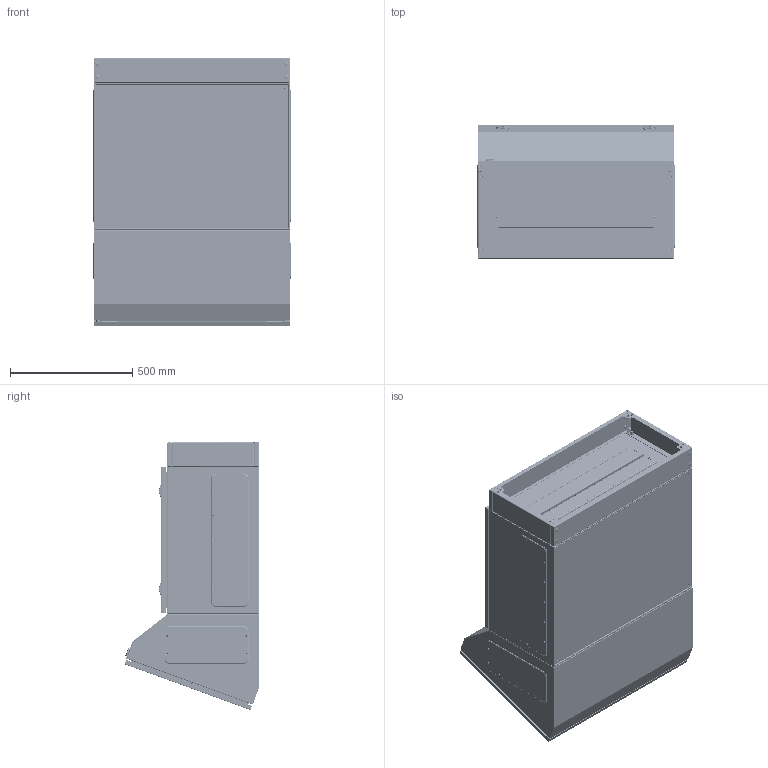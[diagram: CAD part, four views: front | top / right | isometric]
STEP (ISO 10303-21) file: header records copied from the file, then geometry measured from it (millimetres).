
FILE_DESCRIPTION (( 'STEP AP203' ), '1' );
FILE_NAME ('R5RCPC800+R5RBPC800+R5N3BP84+R5FZ8+R5BZ4_Assem.STEP', '2024-12-02T19:23:52', ( '' ), ( '' ), 'SwSTEP 2.0', 'SolidWorks 2022', '' );
FILE_SCHEMA (( 'CONFIG_CONTROL_DESIGN' ));
Length unit declared in the file: millimetre
Products named in the file (90): RB.0048.11.01.0_-04; M6x16 DIN 912 HX cl.4,8 Zinc_stright; M4x10 DIN 7500 M PZ cl.4,8 Zinc_straight; RB.2171.00.00.0 СБ; PF 4x8 flange ST_04; RB.3108.04.00.0 СБ_-01; Pin 1.0х12 DIN 6325; RB.3104.04.00.0 СБ; M8x20 DIN 933 cl.8,8 Zinc_straight; Gas elevator M102_1; M4x6 DIN 7985 PH cl.4,8 Zinc_straight; Уплотнитель неопрен 3x8_PD.24.07.05_800; RB.1055.00.00.0_-03; RB.3104.01.00.0 СБ_-01; PF 4x8 flange ST_02; М6х12 A5100231_straight; RB.2703.00.00.0; RB.3108.02.01.0; RB.3108.02.02.0_-01; R5FZ_R5FZ8-400; RB.1054.00.00.0_-03; RB.3104.02.01.0_-01; RB.2237.00.00.0; M8 DIN 6923 cl.8,0 Zinc_thread; TPA.08.0002.00.00.0; RB.3108.05.03.0; AC00C343-Trizam; RB.3108.05.02.0; RB.2010.00.00.0_-04; TPA.08.0077.00.00.0; TPA.08.0001.00.00.0; RB.3108.03.00.0 СБ; PF 7,5x15 door R5RCPC, R5RBPC_800x550; RB.0048.11.00.0 CБ_-04; Plug_11.5-13Д18ЧК_-00; RB.3108.02.01.0_-01; RB.1728.00.00.0_-02; RB.3108.03.01.0; RB.2070.00.00.0; R5RCPC800+R5RBPC800+R5N3BP84+R5FZ8+R5BZ4_Assem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
Assembly tree (281 placements, depth 5):
  R5RCPC800+R5RBPC800+R5N3BP84+R5FZ8+R5BZ4_Assem
    RB.3104.00.00.0 СБ_-01
      RB.3104.01.00.0 СБ_-01
        RB.3104.02.00.0 СБ_-01
          RB.3104.02.02.0_-01
          RB.3104.02.01.0_-01  x2
          PT М8х25 cl.4.8 Cu ISO13918_straight  x4
          PT М6х16 Cu ISO13918_straight  x4
        RB.2171.00.00.0 СБ  x2
          RB.2171.00.01.0
          Pin 1.0х12 DIN 6325
        4 DIN 125 A Plastic  x2
        M4x6 DIN 7985 PH cl.4,8 Zinc_straight  x2
        TPA.08.0077.00.00.0  x2
      RB.2070.00.00.0  x4
      RB.0048.00.02.1_-07
      M8 DIN 6923 cl.8,0 Zinc_straight  x4
      RB.3104.03.00.0 СБ
        RB.3104.04.00.0 СБ
          RB.3104.04.01.0
          RB.2237.00.00.0  x2
          RB.2010.00.00.0_-04  x2
          М6х12 A5100231_straight  x2
        PF 7,5x15 door R5RCPC, R5RBPC_600x800
        TPA.08.0060.00.00.0 СБ  x2
          A7100032-R
          AC00C343-Trizam
          AC00C348-R
          TPA.08.0001.00.00.0
          TPA.08.0002.00.00.0
          TPA.08.0003.00.00.0
          M6x16 DIN 7985 PZ cl.4,8 Zinc_straight
        AC00C356-R_AC00c356(A7100031)  x2
      RB.2238.00.00.0  x2
      AC00C380-R  x2
      RB.0048.11.00.0 CБ_-04  x2
        RB.0048.11.01.0_-04
        PF 4x8 flange ST_04
      M4x10 DIN 7500 M PZ cl.4,8 Zinc_straight  x4
    Уплотнитель неопрен 3x8_PD.24.07.05_800
    RB.3108.00.00.0 СБ_-01
      RB.3108.01.00.0 СБ_-01
        RB.3108.02.00.0 СБ_-01
          RB.3108.02.02.0_-01
          RB.3108.02.01.0
          RB.3108.02.01.0_-01
          RB.3108.02.03.0_-01
          PT М6х16 Cu ISO13918_straight  x4
          PT М8х25 cl.4.8 Cu ISO13918_straight  x4
        RB.2171.00.00.0 СБ  x2
          RB.2171.00.01.0
          Pin 1.0х12 DIN 6325
        4 DIN 125 A Plastic  x2
        M4x6 DIN 7985 PH cl.4,8 Zinc_straight  x2
        RB.3108.03.00.0 СБ  x2
          A7100032-R
          AC00C343-Trizam
          AC00C348-R
          TPA.08.0001.00.00.0
          TPA.08.0002.00.00.0
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Bounding box: 807 x 549.18 x 1093.86 mm (x, y, z)
Volume: 8098731.7 mm3; surface area: 9986989.3 mm2
Topology: 301 solids, 301 shells, 15826 faces, 39441 edges, 23891 vertices
Faces by surface type: plane 7326, cylinder 3942, cone 1698, bspline 1602, torus 868, sphere 390
Full cylindrical faces by diameter (mm): 0.8 x8, 1 x8, 2.4 x2, 2.5 x10, 3 x12, 3.2 x86, 3.3 x4, 3.5 x4, 3.714 x2, 3.8 x4, 4 x252, 4.3 x8, 4.4 x4, 4.5 x4, 4.857 x8, 5 x160, 5.1 x8, 5.3 x2, 5.5 x10, 5.6 x2, 6 x24, 6.4 x8, 6.7 x2, 6.8 x38, 7 x16, 7.5 x20, 8 x90, 8.4 x60, 8.9 x8, 9 x18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
Entity records: 216341 total; most frequent: CARTESIAN_POINT 72050, ORIENTED_EDGE 26536, DIRECTION 25801, EDGE_CURVE 13268, AXIS2_PLACEMENT_3D 8717, VERTEX_POINT 8610, LINE 8367, VECTOR 8367
